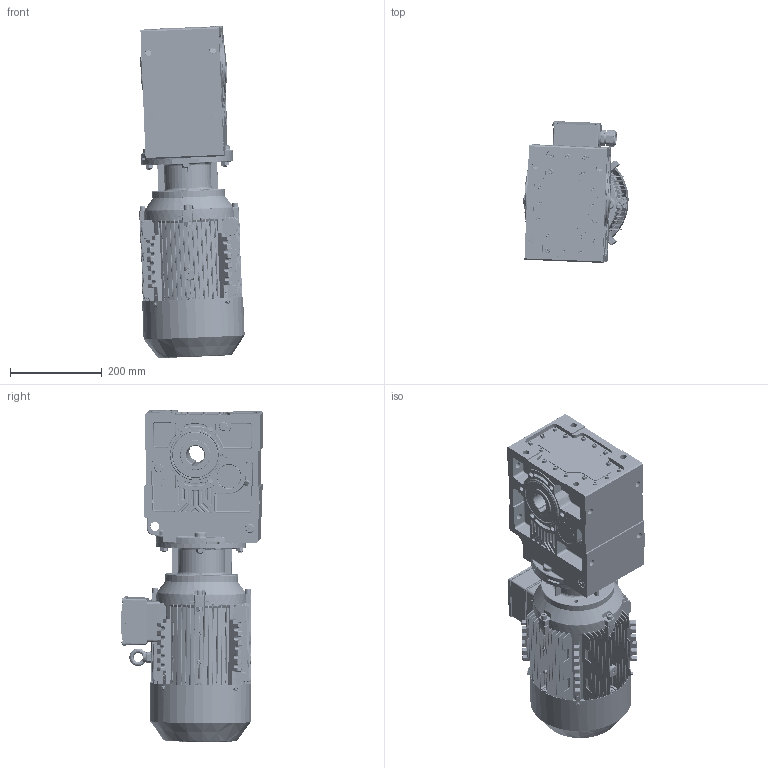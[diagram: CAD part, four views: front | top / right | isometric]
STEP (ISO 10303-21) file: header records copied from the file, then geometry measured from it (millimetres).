
FILE_DESCRIPTION (( 'STEP AP203' ), '1' );
FILE_NAME ('KV_373_0_MX3-112.STEP', '2018-11-21T10:41:24', ( '' ), ( '' ), 'SwSTEP 2.0', 'SolidWorks 2012', '' );
FILE_SCHEMA (( 'CONFIG_CONTROL_DESIGN' ));
Products named in the file (26): DMX-IE3 112 Flange; KV_373_0_MX3-112; MX3-112_B14; DMX-IE3 112  cable glands_3; eyebolts gb_GB_FASTENER_SCREWS_FRS M8-N_3; cross recessed pan head screws gb_GB_CROSS_SCREWS_TYPE1 M5X12-12  H type-N_3; hexagon flange head tapping screws gb_GB_SQUARE_AND_HEXAGON_TYPE137 ST4.8X9.5 C-N_3; DMX-IE3 112terminal box cover_3; DMX-IE3 112   fan cover_3; plain parallel keys_GB_CONNECTING_PIECE_KEYS_CSK 8X50_3; DMX-IE3 112terminal box base_3; spring lock washers--normal type gb_GB_FASTENER_WASHER_SW 8_3; circlips for shaft--type a large gb_GB_CONNECTING_PIECE_RING_RRA 28_3; hexagon nuts grade c gb_GB_FASTENER_NUT_SNC1 M8-N_3; hexagon socket head cap screws gb_GB_FASTENER_SCREWS_HSHCS M8X40-N_3; DMX-IE3 112M4  oil seal_3; deep groove ball bearings gb_Rolling bearings 6206 GB 276-94_3; DMX-IE3 112 fan_3; DMX-IE3 oil seal_3; DMX-IE3 112 shield_3; deep groove ball bearings gb_Rolling bearings 6306 GB 276-94_3; DMX-IE3 112 shaft_3; 33100B14_Varsayìlan; DMX-IE3 112M4 casing_3; ML57A_Varsayìlan; K373_Varsayìlan
Assembly tree (54 placements, depth 3):
  KV_373_0_MX3-112
    K373_Varsayìlan
    33100B14_Varsayìlan
    ML57A_Varsayìlan
    MX3-112_B14
      DMX-IE3 112M4 casing_3
      DMX-IE3 112 shaft_3
      DMX-IE3 112 shield_3
      deep groove ball bearings gb_Rolling bearings 6306 GB 276-94_3
      deep groove ball bearings gb_Rolling bearings 6206 GB 276-94_3
      DMX-IE3 112M4  oil seal_3
      DMX-IE3 oil seal_3
      DMX-IE3 112 fan_3
      circlips for shaft--type a large gb_GB_CONNECTING_PIECE_RING_RRA 28_3
      spring lock washers--normal type gb_GB_FASTENER_WASHER_SW 8_3  x8
      hexagon nuts grade c gb_GB_FASTENER_NUT_SNC1 M8-N_3  x8
      hexagon socket head cap screws gb_GB_FASTENER_SCREWS_HSHCS M8X40-N_3  x8
      DMX-IE3 112   fan cover_3
      plain parallel keys_GB_CONNECTING_PIECE_KEYS_CSK 8X50_3
      DMX-IE3 112terminal box base_3
      DMX-IE3 112terminal box cover_3
      cross recessed pan head screws gb_GB_CROSS_SCREWS_TYPE1 M5X12-12  H type-N_3  x4
      eyebolts gb_GB_FASTENER_SCREWS_FRS M8-N_3
      hexagon flange head tapping screws gb_GB_SQUARE_AND_HEXAGON_TYPE137 ST4.8X9.5 C-N_3  x5
      DMX-IE3 112  cable glands_3  x2
      DMX-IE3 112 Flange
Bounding box: 228.74 x 309.19 x 721.76 mm (x, y, z)
Volume: 12024292.8 mm3; surface area: 2019147.6 mm2
Topology: 53 solids, 59 shells, 8024 faces, 20758 edges, 12749 vertices
Faces by surface type: plane 2922, cylinder 2214, bspline 1796, cone 735, torus 236, sphere 121
Entity records: 310545 total; most frequent: CARTESIAN_POINT 139083, ORIENTED_EDGE 37988, DIRECTION 31333, EDGE_CURVE 18997, VERTEX_POINT 11790, AXIS2_PLACEMENT_3D 11294, VECTOR 8745, LINE 8745
